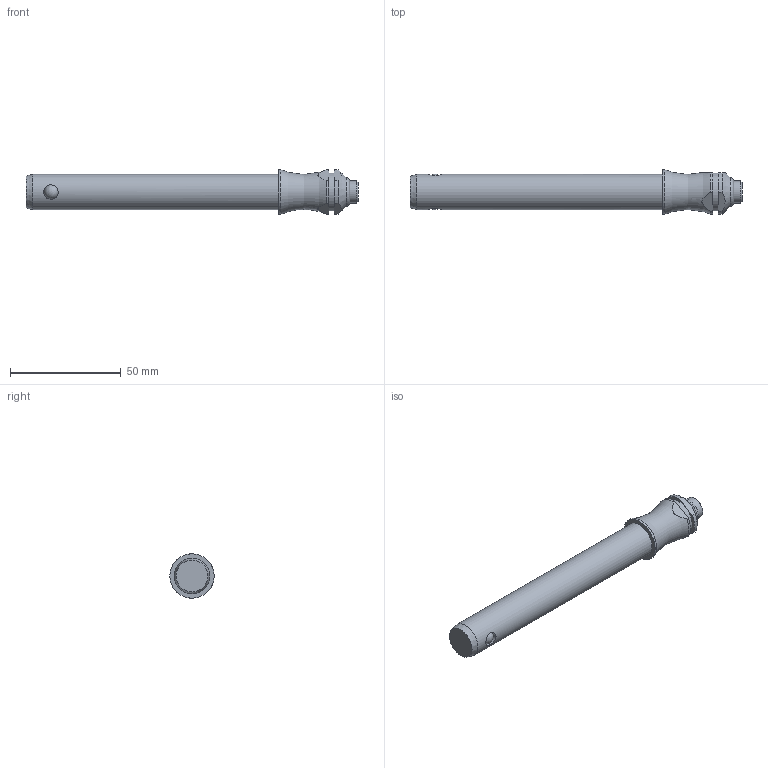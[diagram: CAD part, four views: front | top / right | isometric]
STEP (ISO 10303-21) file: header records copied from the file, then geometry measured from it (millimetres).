
FILE_DESCRIPTION( ( 'STEP AP203' ), '1' );
FILE_NAME( 'C:/Temp/Ganter_Step_05_03_2020/data/3_1/gn113_3/Stainless Steel-Ball lock pin GN 113.3-16-100 (activated).stp', '2020-03-12T08:18:58', ( 'License CC BY-ND 4.0' ), ( 'CADENAS' ), ' ', 'PARTsolutions', ' ' );
FILE_SCHEMA( ( 'CONFIG_CONTROL_DESIGN' ) );
Length unit declared in the file: millimetre
Products named in the file (1): _Stainless Steel-Ball lock pin GN 113.3-16-100 (activated)
Bounding box: 149.75 x 20 x 20 mm (x, y, z)
Volume: 30469.5 mm3; surface area: 8337 mm2
Topology: 1 solids, 1 shells, 30 faces, 68 edges, 43 vertices
Faces by surface type: cylinder 12, plane 11, cone 3, torus 2, sphere 2
Full cylindrical faces by diameter (mm): 6.5 x2, 10 x1, 16 x1, 17 x1, 20 x1
Entity records: 1014 total; most frequent: CARTESIAN_POINT 364, DIRECTION 130, ORIENTED_EDGE 102, AXIS2_PLACEMENT_3D 56, EDGE_CURVE 51, EDGE_LOOP 46, VERTEX_POINT 40, FACE_OUTER_BOUND 38
